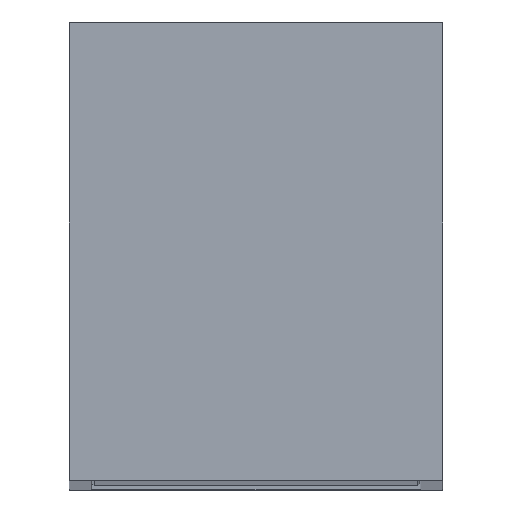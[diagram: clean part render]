
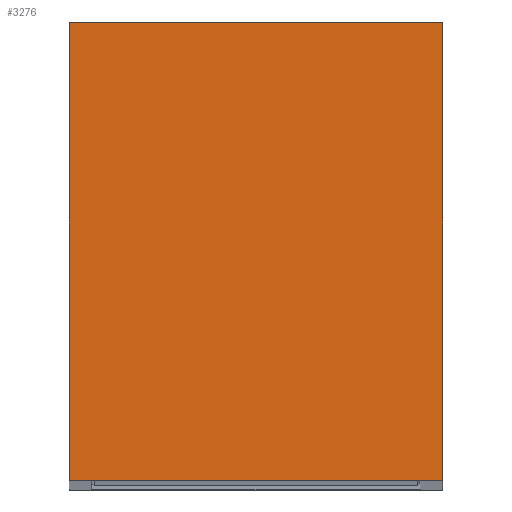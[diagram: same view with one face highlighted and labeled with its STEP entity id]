
A CAD part, top view. The second image highlights one B-rep face of the part: STEP entity #3276.
In plain terms, the highlighted planar face has unit normal (0, 0, 1).
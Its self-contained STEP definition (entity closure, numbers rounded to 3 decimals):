
#43 = ORIENTED_EDGE ( 'NONE', *, *, #1790, .T. ) ;
#135 = ORIENTED_EDGE ( 'NONE', *, *, #1140, .T. ) ;
#304 = LINE ( 'NONE', #3257, #849 ) ;
#310 = AXIS2_PLACEMENT_3D ( 'NONE', #1330, #2919, #2134 ) ;
#321 = DIRECTION ( 'NONE',  ( 0., -1., 0. ) ) ;
#425 = VERTEX_POINT ( 'NONE', #2419 ) ;
#557 = CARTESIAN_POINT ( 'NONE',  ( 39.091, 95.076, 1129. ) ) ;
#566 = VERTEX_POINT ( 'NONE', #1233 ) ;
#663 = CARTESIAN_POINT ( 'NONE',  ( -38.509, 95.076, 1129. ) ) ;
#771 = VECTOR ( 'NONE', #2295, 1000. ) ;
#804 = EDGE_CURVE ( 'NONE', #2826, #1131, #839, .T. ) ;
#839 = LINE ( 'NONE', #1457, #2619 ) ;
#849 = VECTOR ( 'NONE', #321, 1000. ) ;
#948 = LINE ( 'NONE', #663, #771 ) ;
#980 = DIRECTION ( 'NONE',  ( 1., 0., 0. ) ) ;
#1048 = CARTESIAN_POINT ( 'NONE',  ( 39.091, -0.024, 1129. ) ) ;
#1131 = VERTEX_POINT ( 'NONE', #557 ) ;
#1140 = EDGE_CURVE ( 'NONE', #425, #566, #304, .T. ) ;
#1233 = CARTESIAN_POINT ( 'NONE',  ( -38.509, -0.024, 1129. ) ) ;
#1291 = FACE_OUTER_BOUND ( 'NONE', #2680, .T. ) ;
#1330 = CARTESIAN_POINT ( 'NONE',  ( 0., 0., 1129. ) ) ;
#1437 = ORIENTED_EDGE ( 'NONE', *, *, #1882, .T. ) ;
#1457 = CARTESIAN_POINT ( 'NONE',  ( 39.091, -0.024, 1129. ) ) ;
#1785 = ORIENTED_EDGE ( 'NONE', *, *, #804, .T. ) ;
#1790 = EDGE_CURVE ( 'NONE', #566, #2826, #3325, .T. ) ;
#1882 = EDGE_CURVE ( 'NONE', #1131, #425, #948, .T. ) ;
#2134 = DIRECTION ( 'NONE',  ( -1., 0., 0. ) ) ;
#2295 = DIRECTION ( 'NONE',  ( -1., 0., 0. ) ) ;
#2419 = CARTESIAN_POINT ( 'NONE',  ( -38.509, 95.076, 1129. ) ) ;
#2543 = DIRECTION ( 'NONE',  ( 0., 1., 0. ) ) ;
#2606 = CARTESIAN_POINT ( 'NONE',  ( -38.509, -0.024, 1129. ) ) ;
#2619 = VECTOR ( 'NONE', #2543, 1000. ) ;
#2680 = EDGE_LOOP ( 'NONE', ( #135, #43, #1785, #1437 ) ) ;
#2801 = VECTOR ( 'NONE', #980, 1000. ) ;
#2826 = VERTEX_POINT ( 'NONE', #1048 ) ;
#2919 = DIRECTION ( 'NONE',  ( 0., 0., -1. ) ) ;
#2937 = PLANE ( 'NONE',  #310 ) ;
#3257 = CARTESIAN_POINT ( 'NONE',  ( -38.509, -0.024, 1129. ) ) ;
#3276 = ADVANCED_FACE ( 'NONE', ( #1291 ), #2937, .F. ) ;
#3325 = LINE ( 'NONE', #2606, #2801 ) ;
